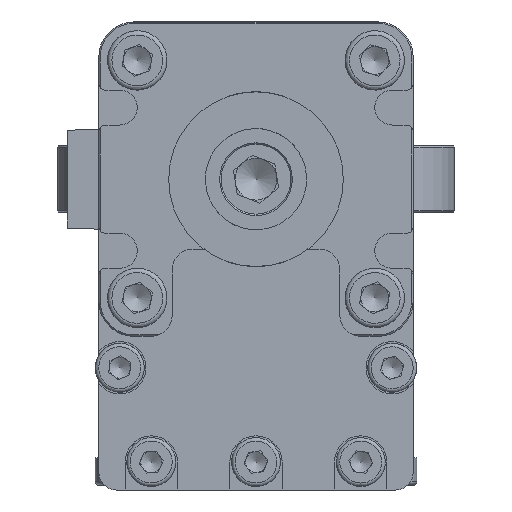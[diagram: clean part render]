
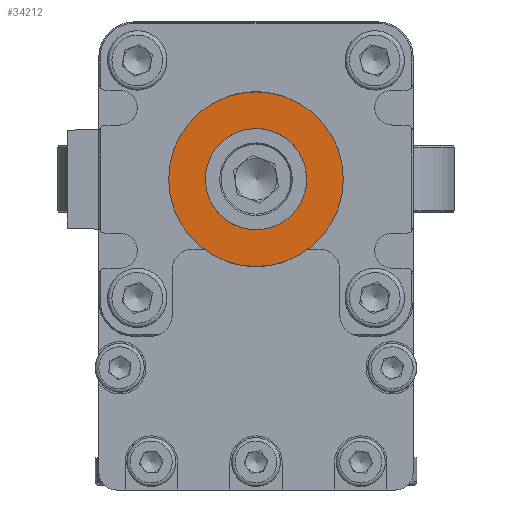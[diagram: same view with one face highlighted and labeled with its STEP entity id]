
A CAD part, front view. The second image highlights one B-rep face of the part: STEP entity #34212.
In plain terms, the highlighted planar face has unit normal (0, -1, 0).
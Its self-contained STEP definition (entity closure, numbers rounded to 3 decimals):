
#31515=PLANE('',#61282);
#34212=ADVANCED_FACE('',(#35607,#35608),#31515,.F.);
#35607=FACE_BOUND('',#38825,.T.);
#35608=FACE_BOUND('',#38826,.T.);
#38825=EDGE_LOOP('',(#48801));
#38826=EDGE_LOOP('',(#48802));
#48801=ORIENTED_EDGE('',*,*,#56598,.F.);
#48802=ORIENTED_EDGE('',*,*,#56611,.F.);
#51611=VERTEX_POINT('',#84108);
#51623=VERTEX_POINT('',#84377);
#56598=EDGE_CURVE('',#51611,#51611,#57585,.T.);
#56611=EDGE_CURVE('',#51623,#51623,#57587,.T.);
#57585=CIRCLE('',#61269,12.5);
#57587=CIRCLE('',#61274,7.25);
#61269=AXIS2_PLACEMENT_3D('',#84107,#72545,#72546);
#61274=AXIS2_PLACEMENT_3D('',#84376,#72555,#72556);
#61282=AXIS2_PLACEMENT_3D('',#84445,#72571,#72572);
#72545=DIRECTION('',(0.,1.,0.));
#72546=DIRECTION('',(1.,0.,0.));
#72555=DIRECTION('',(0.,-1.,0.));
#72556=DIRECTION('',(-0.89,0.,0.456));
#72571=DIRECTION('',(0.,1.,0.));
#72572=DIRECTION('',(0.,0.,1.));
#84107=CARTESIAN_POINT('',(-200.,-741.,-22.5));
#84108=CARTESIAN_POINT('',(-187.5,-741.,-22.5));
#84376=CARTESIAN_POINT('',(-200.,-741.,-22.5));
#84377=CARTESIAN_POINT('',(-206.453,-741.,-19.195));
#84445=CARTESIAN_POINT('',(-200.,-741.,-22.5));
